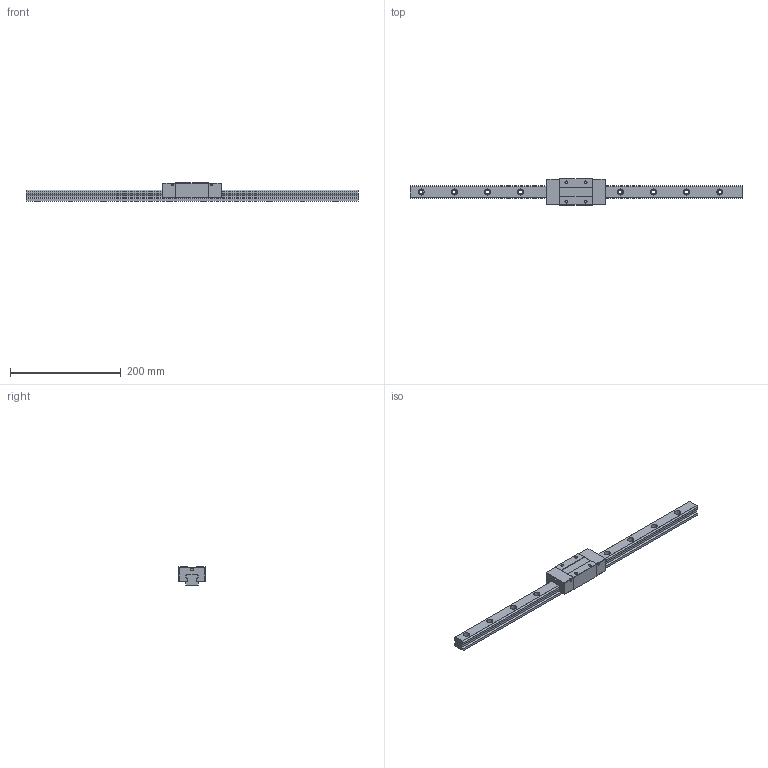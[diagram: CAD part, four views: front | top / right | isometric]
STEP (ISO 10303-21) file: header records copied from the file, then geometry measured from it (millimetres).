
FILE_DESCRIPTION (( 'STEP AP203' ), '1' );
FILE_NAME ('TRS25VN-DZ.STEP', '2024-06-28T07:15:46', ( '' ), ( '' ), 'SwSTEP 2.0', 'SolidWorks 2022', '' );
FILE_SCHEMA (( 'CONFIG_CONTROL_DESIGN' ));
Length unit declared in the file: millimetre
Products named in the file (1): TRS25VN-DZ
Bounding box: 600 x 48 x 33 mm (x, y, z)
Volume: 337331.2 mm3; surface area: 81029.3 mm2
Topology: 2 solids, 2 shells, 192 faces, 496 edges, 328 vertices
Faces by surface type: cylinder 96, plane 96
Entity records: 6023 total; most frequent: DIRECTION 1074, CARTESIAN_POINT 1017, ORIENTED_EDGE 992, EDGE_CURVE 496, AXIS2_PLACEMENT_3D 385, VERTEX_POINT 328, VECTOR 304, LINE 304
